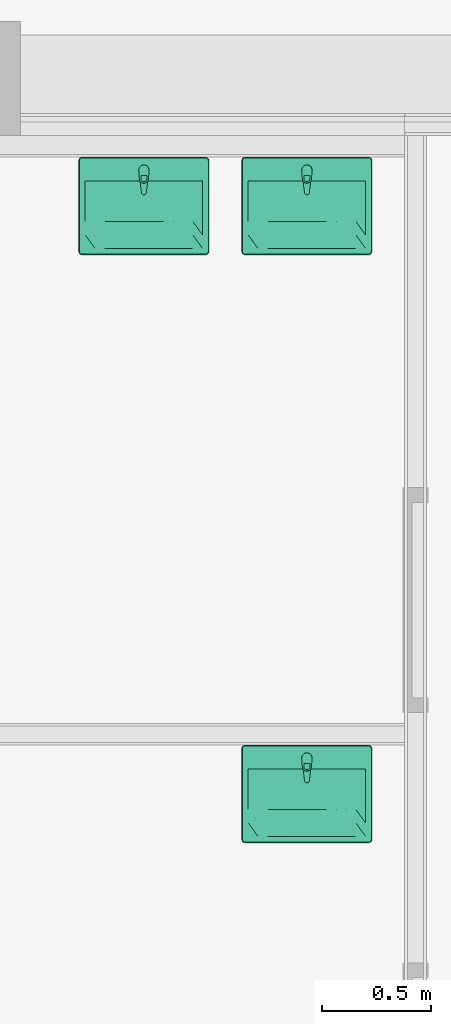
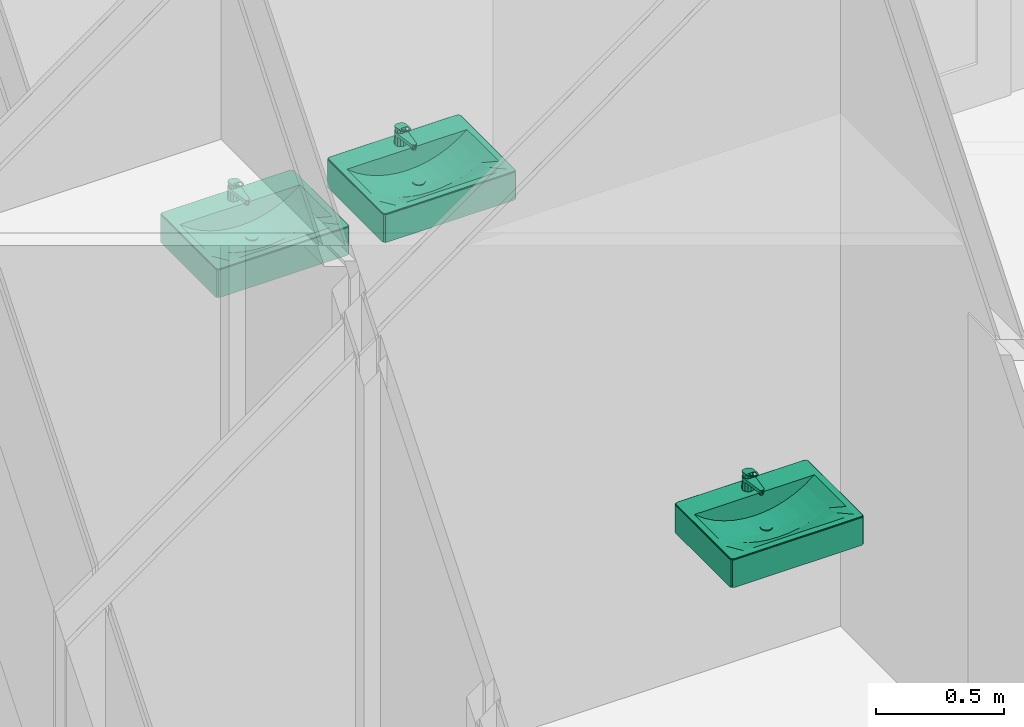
# One storey, part 119 of 135: 3 flow controllers.
"""IFC2X3 building model written with IfcOpenShell, lengths in millimetres."""

from ifc_helpers import new_model, entity, si_unit, converted_unit, derived_unit, money_unit, direction, frame, origin_with_axes, place, context, subcontext, project, spatial, open_shell, faceted_brep, surface_model, source, transform, mapped, type_object, type_shapes, element, save


model = new_model("IFC2X3")

# Units and contexts
model_context = context("Model", 3, precision=0.01, world=origin_with_axes(), true_north=direction((0.0, 1.0)))
body_context = subcontext(model_context, "Body", "Model", "MODEL_VIEW")
ifc_project = project(units=[si_unit("LENGTHUNIT", "METRE", prefix="MILLI"), si_unit("AREAUNIT", "SQUARE_METRE"), si_unit("VOLUMEUNIT", "CUBIC_METRE"), converted_unit("PLANEANGLEUNIT", "DEGREE", entity("IfcPlaneAngleMeasure", 0.0174532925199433), si_unit("PLANEANGLEUNIT", "RADIAN"), dimensions=[0, 0, 0, 0, 0, 0, 0]), money_unit("EUR"), converted_unit("TIMEUNIT", "Year", entity("IfcTimeMeasure", 31557600.0), si_unit("TIMEUNIT", "SECOND"), dimensions=[0, 0, 1, 0, 0, 0, 0]), si_unit("MASSUNIT", "GRAM", prefix="KILO"), si_unit("THERMODYNAMICTEMPERATUREUNIT", "DEGREE_CELSIUS"), si_unit("LUMINOUSINTENSITYUNIT", "LUMEN"), si_unit("ENERGYUNIT", "JOULE", prefix="MEGA"), derived_unit("THERMALCONDUCTANCEUNIT", [(si_unit("POWERUNIT", "WATT"), 1), (si_unit("LENGTHUNIT", "METRE"), -1), (si_unit("THERMODYNAMICTEMPERATUREUNIT", "KELVIN"), -1)]), derived_unit("SPECIFICHEATCAPACITYUNIT", [(si_unit("ENERGYUNIT", "JOULE"), 1), (si_unit("MASSUNIT", "GRAM", prefix="KILO"), -1), (si_unit("THERMODYNAMICTEMPERATUREUNIT", "KELVIN"), -1)]), derived_unit("MASSDENSITYUNIT", [(si_unit("MASSUNIT", "GRAM", prefix="KILO"), 1), (si_unit("VOLUMEUNIT", "CUBIC_METRE"), -1)])], contexts=[model_context])

# Site, building, storey
site_placement = place(None, origin_with_axes())
site = spatial("IfcSite", under=ifc_project, at=site_placement, Name="Site", CompositionType="ELEMENT")
building_placement = place(site_placement, origin_with_axes())
building = spatial("IfcBuilding", under=site, at=building_placement, Name="Naam gebouw", CompositionType="ELEMENT")
storey_placement = place(building_placement, origin_with_axes())
storey = spatial("IfcBuildingStorey", under=building, at=storey_placement, Name="Begane grond N", CompositionType="ELEMENT", Elevation=0.0)

# Flow controllers
valve_type = type_object("IfcValveType", Name="Wasbak 27", PredefinedType="NOTDEFINED")
shared_shape = source(origin_with_axes(), body_context, "Body", "SurfaceModel", [
    faceted_brep([(-285.0, -450.0, 865.0), (-292.5, -447.9903810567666, 865.0), (-297.9903810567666, -442.5, 865.0), (-300.0, -435.0, 865.0), (-300.0, -15.00000000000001, 865.0), (-297.9903810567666, -7.500000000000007, 865.0), (-292.5, -2.009618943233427, 865.0), (-285.0, 0.0, 865.0), (285.0, 0.0, 865.0), (292.5, -2.009618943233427, 865.0), (297.9903810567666, -7.500000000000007, 865.0), (300.0, -15.00000000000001, 865.0), (300.0, -435.0, 865.0), (297.9903810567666, -442.5, 865.0), (292.5, -447.9903810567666, 865.0), (285.0, -450.0, 865.0), (270.0, -420.0000000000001, 865.0), (270.0, -110.0, 865.0), (-270.0, -110.0, 865.0), (-270.0, -420.0000000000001, 865.0), (-284.9999995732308, -450.0000003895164, 995.0), (-292.499999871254, -447.9903813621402, 995.0), (-297.990381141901, -442.5000000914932, 995.0), (-300.0000001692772, -434.99999979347, 995.0), (-300.0000001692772, -14.99999986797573, 995.0), (-297.990381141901, -7.499999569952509, 995.0), (-292.499999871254, -2.009619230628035, 995.0), (-284.9999995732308, -2.032518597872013e-07, 995.0), (284.9999997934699, -2.032518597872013e-07, 995.0), (292.5000000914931, -2.009619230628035, 995.0), (297.9903813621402, -7.499999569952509, 995.0), (300.0000003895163, -14.99999986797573, 995.0), (300.0000003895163, -434.99999979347, 995.0), (297.9903813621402, -442.5000000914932, 995.0), (292.5000000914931, -447.9903813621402, 995.0), (284.9999997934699, -450.0000003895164, 995.0), (270.0, -110.0, 999.9999996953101), (270.0, -420.0000000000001, 999.9999996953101), (-270.0, -110.0, 999.9999996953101), (-270.0, -420.0000000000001, 999.9999996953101), (-284.9775698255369, -449.8296295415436, 996.2940952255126), (-292.411809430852, -447.8376310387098, 996.2940952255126), (-297.8376308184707, -442.4118096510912, 996.2940952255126), (-299.8296293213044, -434.9775700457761, 996.2940952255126), (-299.8296293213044, -15.02242961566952, 996.2940952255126), (-297.8376308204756, -7.588190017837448, 996.2940952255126), (-292.4118094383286, -2.16236955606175, 996.2940952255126), (-284.9775698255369, -0.1703710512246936, 996.2940952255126), (284.9775700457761, -0.1703710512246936, 996.2940952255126), (292.4118096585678, -2.16236955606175, 996.2940952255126), (297.8376310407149, -7.588190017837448, 996.2940952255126), (299.8296295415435, -15.02242961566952, 996.2940952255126), (299.8296295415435, -434.9775700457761, 996.2940952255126), (297.8376310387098, -442.4118096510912, 996.2940952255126), (292.4118096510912, -447.8376310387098, 996.2940952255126), (284.9775700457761, -449.8296295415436, 996.2940952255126), (284.3417376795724, -4.999997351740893, 999.9999996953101), (-284.3417374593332, -4.999997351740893, 999.9999996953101), (-289.9118111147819, -6.492494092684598, 999.9999996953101), (-293.507506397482, -10.08818876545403, 999.9999996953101), (-295.0000030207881, -15.6582619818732, 999.9999996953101), (-295.0000030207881, -434.3417376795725, 999.9999996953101), (-293.5075063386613, -439.9118111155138, 999.9999996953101), (-289.9118108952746, -443.5075065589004, 999.9999996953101), (-284.3417374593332, -445.0000032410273, 999.9999996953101), (284.3417376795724, -445.0000032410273, 999.9999996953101), (289.9118111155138, -443.5075065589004, 999.9999996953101), (293.5075065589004, -439.9118111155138, 999.9999996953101), (295.0000032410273, -434.3417376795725, 999.9999996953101), (295.0000032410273, -15.6582619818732, 999.9999996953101), (293.5075066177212, -10.08818876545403, 999.9999996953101), (289.911811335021, -6.492494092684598, 999.9999996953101), (-284.8071989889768, -448.5355345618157, 998.5355339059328), (-291.7419365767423, -446.6773772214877, 998.5355339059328), (-296.6773770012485, -441.7419367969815, 998.5355339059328), (-298.5355343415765, -434.807199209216, 998.5355339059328), (-298.5355343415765, -15.1928004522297, 998.5355339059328), (-296.677377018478, -8.258062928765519, 998.5355339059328), (-291.7419366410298, -3.322623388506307, 998.5355339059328), (-284.8071989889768, -1.464466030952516, 998.5355339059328), (284.8071992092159, -1.464466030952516, 998.5355339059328), (291.7419368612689, -3.322623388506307, 998.5355339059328), (296.6773772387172, -8.258062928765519, 998.5355339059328), (298.5355345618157, -15.1928004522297, 998.5355339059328), (298.5355345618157, -434.807199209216, 998.5355339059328), (296.6773772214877, -441.7419367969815, 998.5355339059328), (291.7419367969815, -446.6773772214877, 998.5355339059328), (284.8071992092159, -448.5355345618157, 998.5355339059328), (284.5121082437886, -3.705904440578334, 999.8296291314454), (-284.5121080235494, -3.705904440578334, 999.8296291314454), (-290.581682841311, -5.332242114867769, 999.8296291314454), (-294.667758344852, -9.418316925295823, 999.8296291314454), (-296.2940959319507, -15.487891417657, 999.8296291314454), (-296.2940959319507, -434.5121082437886, 999.8296291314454), (-294.6677583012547, -440.5816828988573, 999.8296291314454), (-290.5816826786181, -444.6677585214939, 999.8296291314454), (-284.5121080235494, -446.2940961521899, 999.8296291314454), (284.5121082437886, -446.2940961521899, 999.8296291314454), (290.5816828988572, -444.6677585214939, 999.8296291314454), (294.6677585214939, -440.5816828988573, 999.8296291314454), (296.2940961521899, -434.5121082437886, 999.8296291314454), (296.2940961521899, -15.487891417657, 999.8296291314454), (294.6677585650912, -9.418316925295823, 999.8296291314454), (290.5816830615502, -5.332242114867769, 999.8296291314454)], [[[0, 1, 2, 3, 4, 5, 6, 7, 8, 9, 10, 11, 12, 13, 14, 15], [16, 17, 18, 19]], [[1, 0, 20, 21]], [[2, 1, 21, 22]], [[3, 2, 22, 23]], [[4, 3, 23, 24]], [[5, 4, 24, 25]], [[6, 5, 25, 26]], [[7, 6, 26, 27]], [[8, 7, 27, 28]], [[9, 8, 28, 29]], [[10, 9, 29, 30]], [[11, 10, 30, 31]], [[12, 11, 31, 32]], [[13, 12, 32, 33]], [[14, 13, 33, 34]], [[15, 14, 34, 35]], [[0, 15, 35, 20]], [[36, 17, 16, 37]], [[38, 18, 17, 36]], [[39, 19, 18, 38]], [[37, 16, 19, 39]], [[21, 20, 40, 41]], [[22, 21, 41, 42]], [[23, 22, 42, 43]], [[24, 23, 43, 44]], [[25, 24, 44, 45]], [[26, 25, 45, 46]], [[27, 26, 46, 47]], [[28, 27, 47, 48]], [[29, 28, 48, 49]], [[30, 29, 49, 50]], [[31, 30, 50, 51]], [[32, 31, 51, 52]], [[33, 32, 52, 53]], [[34, 33, 53, 54]], [[35, 34, 54, 55]], [[20, 35, 55, 40]], [[56, 57, 58, 59, 60, 61, 62, 63, 64, 65, 66, 67, 68, 69, 70, 71], [37, 39, 38, 36]], [[41, 40, 72, 73]], [[42, 41, 73, 74]], [[43, 42, 74, 75]], [[44, 43, 75, 76]], [[45, 44, 76, 77]], [[46, 45, 77, 78]], [[47, 46, 78, 79]], [[48, 47, 79, 80]], [[49, 48, 80, 81]], [[50, 49, 81, 82]], [[51, 50, 82, 83]], [[52, 51, 83, 84]], [[53, 52, 84, 85]], [[54, 53, 85, 86]], [[55, 54, 86, 87]], [[40, 55, 87, 72]], [[88, 89, 57, 56]], [[89, 90, 58, 57]], [[90, 91, 59, 58]], [[91, 92, 60, 59]], [[92, 93, 61, 60]], [[93, 94, 62, 61]], [[94, 95, 63, 62]], [[95, 96, 64, 63]], [[96, 97, 65, 64]], [[97, 98, 66, 65]], [[98, 99, 67, 66]], [[99, 100, 68, 67]], [[100, 101, 69, 68]], [[101, 102, 70, 69]], [[102, 103, 71, 70]], [[103, 88, 56, 71]], [[73, 72, 96, 95]], [[74, 73, 95, 94]], [[75, 74, 94, 93]], [[76, 75, 93, 92]], [[77, 76, 92, 91]], [[78, 77, 91, 90]], [[79, 78, 90, 89]], [[80, 79, 89, 88]], [[81, 80, 88, 103]], [[82, 81, 103, 102]], [[83, 82, 102, 101]], [[84, 83, 101, 100]], [[85, 84, 100, 99]], [[86, 85, 99, 98]], [[87, 86, 98, 97]], [[72, 87, 97, 96]]]),
    faceted_brep([(270.0, -420.0000000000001, 865.0), (-270.0, -420.0000000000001, 865.0), (-270.0, -110.0, 865.0), (270.0, -110.0, 865.0), (-12.49999999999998, -224.368635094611, 865.0), (0.0, -227.718, 865.0), (12.50000000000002, -224.368635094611, 865.0), (21.65063509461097, -215.218, 865.0), (25.0, -202.718, 865.0), (21.65063509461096, -190.218, 865.0), (12.49999999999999, -181.067364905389, 865.0), (0.0, -177.718, 865.0), (-12.50000000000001, -181.067364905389, 865.0), (-21.65063509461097, -190.218, 865.0), (-25.0, -202.718, 865.0), (-21.65063509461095, -215.218, 865.0), (135.0, -420.0000000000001, 1000.0), (90.0, -420.0000000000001, 1000.0), (44.99999999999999, -420.0000000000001, 1000.0), (0.0, -420.0000000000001, 1000.0), (-45.00000000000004, -420.0000000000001, 1000.0), (-90.00000000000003, -420.0000000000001, 1000.0), (-135.0, -420.0000000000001, 1000.0), (-180.0000000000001, -420.0000000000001, 1000.0), (-225.0, -420.0000000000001, 1000.0), (-270.0, -420.0000000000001, 1000.0), (270.0, -420.0000000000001, 1000.0), (225.0, -420.0000000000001, 1000.0), (180.0, -420.0000000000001, 1000.0), (-270.0, -234.0, 1000.0), (-270.0, -172.0, 1000.0), (-270.0, -110.0, 1000.0), (-270.0, -358.0000000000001, 1000.0), (-270.0, -296.0000000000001, 999.9999999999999), (-135.0, -110.0, 922.6004593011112), (-90.00000000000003, -110.0, 909.8887668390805), (-45.00000000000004, -110.0, 902.449942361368), (0.0, -110.0, 900.0), (44.99999999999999, -110.0, 902.449942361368), (90.0, -110.0, 909.8887668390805), (135.0, -110.0, 922.6004593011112), (180.0, -110.0, 941.1231796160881), (225.0, -110.0, 966.3832810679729), (270.0, -110.0, 1000.0), (-225.0, -110.0, 966.3832810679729), (-180.0000000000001, -110.0, 941.1231796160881), (270.0, -296.0000000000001, 1000.0), (270.0, -358.0000000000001, 1000.0), (270.0, -172.0, 1000.0), (270.0, -234.0, 1000.0), (0.0, -227.718, 900.0), (-12.49999999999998, -224.368635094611, 900.6805395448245), (12.50000000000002, -224.368635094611, 900.6805395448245), (21.65063509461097, -215.218, 901.1787290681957), (25.0, -202.718, 901.3610790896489), (21.65063509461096, -190.218, 901.1787290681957), (12.49999999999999, -181.067364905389, 900.6805395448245), (0.0, -177.718, 900.0), (-12.50000000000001, -181.067364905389, 900.6805395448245), (-21.65063509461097, -190.218, 901.1787290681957), (-25.0, -202.718, 901.3610790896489), (-21.65063509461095, -215.218, 901.1787290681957), (90.0, -358.0000000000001, 959.6989661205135), (44.99999999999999, -358.0000000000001, 956.0213334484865), (0.0, -358.0000000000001, 954.7990813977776), (-45.00000000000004, -358.0000000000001, 956.0213334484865), (-90.00000000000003, -358.0000000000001, 959.6989661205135), (-135.0, -358.0000000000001, 965.8650987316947), (-180.0000000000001, -358.0000000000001, 974.5766150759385), (-225.0, -358.0000000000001, 985.9168845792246), (225.0, -358.0000000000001, 985.9168845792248), (180.0, -358.0000000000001, 974.5766150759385), (135.0, -358.0000000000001, 965.8650987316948), (-225.0, -234.0, 966.3832810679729), (-225.0, -172.0, 966.3832810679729), (-225.0, -296.0000000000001, 970.8433791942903), (-135.0, -172.0, 922.6004593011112), (-90.00000000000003, -172.0, 909.8887668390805), (-45.00000000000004, -172.0, 902.449942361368), (0.0, -172.0, 900.0), (44.99999999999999, -172.0, 902.449942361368), (90.0, -172.0, 909.8887668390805), (135.0, -172.0, 922.6004593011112), (180.0, -172.0, 941.1231796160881), (225.0, -172.0, 966.3832810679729), (-180.0000000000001, -172.0, 941.1231796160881), (225.0, -296.0000000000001, 970.8433791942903), (225.0, -234.0, 966.3832810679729), (-45.00000000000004, -234.0, 902.449942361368), (0.0, -234.0, 900.0), (44.99999999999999, -234.0, 902.449942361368), (-180.0000000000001, -234.0, 941.1231796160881), (-135.0, -234.0, 922.6004593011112), (-90.00000000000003, -234.0, 909.8887668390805), (90.0, -234.0, 909.8887668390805), (135.0, -234.0, 922.6004593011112), (180.0, -234.0, 941.1231796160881), (0.0, -296.0000000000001, 911.4604006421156), (44.99999999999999, -296.0000000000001, 913.6864730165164), (90.0, -296.0000000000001, 920.4312036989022), (-45.00000000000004, -296.0000000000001, 913.6864730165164), (-90.00000000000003, -296.0000000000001, 920.4312036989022), (-135.0, -296.0000000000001, 931.904485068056), (-180.0000000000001, -296.0000000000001, 948.4946543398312), (180.0, -296.0000000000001, 948.4946543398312), (135.0, -296.0000000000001, 931.904485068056)], [[[0, 1, 2, 3], [4, 5, 6, 7, 8, 9, 10, 11, 12, 13, 14, 15]], [[16, 17, 18, 19, 20, 21, 22, 23, 24, 25, 1, 0, 26, 27, 28]], [[29, 30, 31, 2, 1, 25, 32, 33]], [[34, 35, 36, 37, 38, 39, 40, 41, 42, 43, 3, 2, 31, 44, 45]], [[46, 47, 26, 0, 3, 43, 48, 49]], [[50, 5, 4, 51]], [[52, 6, 5, 50]], [[53, 7, 6, 52]], [[54, 8, 7, 53]], [[55, 9, 8, 54]], [[56, 10, 9, 55]], [[57, 11, 10, 56]], [[58, 12, 11, 57]], [[59, 13, 12, 58]], [[60, 14, 13, 59]], [[61, 15, 14, 60]], [[51, 4, 15, 61]], [[16, 62, 17]], [[17, 63, 18]], [[18, 64, 19]], [[19, 65, 20]], [[20, 66, 21]], [[21, 67, 22]], [[22, 68, 23]], [[23, 69, 24]], [[24, 32, 25]], [[26, 70, 27]], [[27, 71, 28]], [[28, 72, 16]], [[29, 73, 74, 30]], [[30, 74, 44, 31]], [[69, 33, 32]], [[75, 29, 33]], [[76, 77, 35, 34]], [[77, 78, 36, 35]], [[78, 79, 37, 36]], [[79, 80, 38, 37]], [[80, 81, 39, 38]], [[81, 82, 40, 39]], [[82, 83, 41, 40]], [[83, 84, 42, 41]], [[84, 48, 43, 42]], [[74, 85, 45, 44]], [[85, 76, 34, 45]], [[47, 46, 86]], [[26, 47, 70]], [[87, 49, 48, 84]], [[46, 49, 87]], [[58, 57, 79, 78, 88, 89, 50, 51, 61, 60, 59]], [[56, 55, 54, 53, 52, 50, 89, 90, 80, 79, 57]], [[16, 72, 62]], [[17, 62, 63]], [[18, 63, 64]], [[19, 64, 65]], [[20, 65, 66]], [[21, 66, 67]], [[22, 67, 68]], [[23, 68, 69]], [[24, 69, 32]], [[27, 70, 71]], [[28, 71, 72]], [[75, 73, 29]], [[73, 91, 85, 74]], [[69, 75, 33]], [[92, 93, 77, 76]], [[93, 88, 78, 77]], [[90, 94, 81, 80]], [[94, 95, 82, 81]], [[95, 96, 83, 82]], [[96, 87, 84, 83]], [[91, 92, 76, 85]], [[46, 87, 86]], [[47, 86, 70]], [[97, 89, 88]], [[98, 90, 89]], [[72, 99, 62]], [[62, 98, 63]], [[63, 97, 64]], [[64, 100, 65]], [[65, 101, 66]], [[66, 102, 67]], [[67, 103, 68]], [[68, 75, 69]], [[70, 104, 71]], [[71, 105, 72]], [[103, 73, 75]], [[103, 91, 73]], [[101, 93, 92]], [[100, 88, 93]], [[99, 94, 90]], [[105, 95, 94]], [[104, 96, 95]], [[86, 87, 96]], [[102, 92, 91]], [[70, 86, 104]], [[98, 89, 97]], [[97, 88, 100]], [[99, 90, 98]], [[72, 105, 99]], [[62, 99, 98]], [[63, 98, 97]], [[64, 97, 100]], [[65, 100, 101]], [[66, 101, 102]], [[67, 102, 103]], [[68, 103, 75]], [[71, 104, 105]], [[102, 91, 103]], [[100, 93, 101]], [[101, 92, 102]], [[105, 94, 99]], [[104, 95, 105]], [[86, 96, 104]]]),
    faceted_brep([(-21.65063509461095, -215.218, 900.0), (-25.0, -202.718, 900.0), (-21.65063509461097, -190.218, 900.0), (-12.50000000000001, -181.067364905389, 900.0), (0.0, -177.718, 900.0), (12.49999999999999, -181.067364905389, 900.0), (21.65063509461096, -190.218, 900.0), (25.0, -202.718, 900.0), (21.65063509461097, -215.218, 900.0), (12.50000000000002, -224.368635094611, 900.0), (0.0, -227.718, 900.0), (-12.49999999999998, -224.368635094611, 900.0), (-21.65063509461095, -215.218, 905.0), (-25.0, -202.718, 905.0), (-21.65063509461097, -190.218, 905.0), (-12.50000000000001, -181.067364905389, 905.0), (0.0, -177.718, 905.0), (12.49999999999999, -181.067364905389, 905.0), (21.65063509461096, -190.218, 905.0), (25.0, -202.718, 905.0), (21.65063509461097, -215.218, 905.0), (12.50000000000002, -224.368635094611, 905.0), (0.0, -227.718, 905.0), (-12.49999999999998, -224.368635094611, 905.0)], [[[0, 1, 2, 3, 4, 5, 6, 7, 8, 9, 10, 11]], [[0, 12, 13, 1]], [[1, 13, 14, 2]], [[2, 14, 15, 3]], [[3, 15, 16, 4]], [[4, 16, 17, 5]], [[5, 17, 18, 6]], [[6, 18, 19, 7]], [[7, 19, 20, 8]], [[8, 20, 21, 9]], [[9, 21, 22, 10]], [[10, 22, 23, 11]], [[11, 23, 12, 0]], [[12, 23, 22, 21, 20, 19, 18, 17, 16, 15, 14, 13]]]),
    surface_model("IfcShellBasedSurfaceModel", [(0.0, -202.718, 907.0), (6.310952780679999, -191.7871091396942, 906.4975737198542), (0.0, -190.09609443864, 906.4975737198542), (10.93089086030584, -196.40704721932, 906.4975737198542), (12.5, -181.067364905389, 905.0), (0.0, -177.718, 905.0), (-6.310952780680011, -191.7871091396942, 906.4975737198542), (12.62190556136, -202.718, 906.4975737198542), (21.65063509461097, -190.218, 905.0), (-12.50000000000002, -181.067364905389, 905.0), (-10.93089086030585, -196.40704721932, 906.4975737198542), (10.93089086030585, -209.02895278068, 906.4975737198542), (25.0, -202.718, 905.0), (-21.65063509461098, -190.218, 905.0), (-12.62190556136, -202.718, 906.4975737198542), (6.310952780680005, -213.6488908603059, 906.4975737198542), (21.65063509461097, -215.218, 905.0), (-25.0, -202.718, 905.0), (-10.93089086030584, -209.02895278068, 906.4975737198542), (0.0, -215.33990556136, 906.4975737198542), (12.50000000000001, -224.368635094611, 905.0), (-21.65063509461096, -215.218, 905.0), (-6.310952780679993, -213.6488908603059, 906.4975737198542), (0.0, -227.718, 905.0), (-12.49999999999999, -224.368635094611, 905.0)], [open_shell([[[0, 1, 2]], [[0, 3, 1]], [[1, 4, 5, 2]], [[0, 2, 6]], [[0, 7, 3]], [[3, 8, 4, 1]], [[2, 5, 9, 6]], [[0, 6, 10]], [[0, 11, 7]], [[7, 12, 8, 3]], [[6, 9, 13, 10]], [[0, 10, 14]], [[0, 15, 11]], [[11, 16, 12, 7]], [[10, 13, 17, 14]], [[0, 14, 18]], [[0, 19, 15]], [[15, 20, 16, 11]], [[14, 17, 21, 18]], [[0, 18, 22]], [[0, 22, 19]], [[19, 23, 20, 15]], [[18, 21, 24, 22]], [[22, 24, 23, 19]]])]),
    faceted_brep([(-12.50000000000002, -38.34936490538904, 1000.0), (-10.587322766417, -41.66221905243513, 1076.507089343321), (0.0, -38.79807692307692, 1075.961538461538), (0.0, -34.99999999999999, 1000.0), (-21.65063509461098, -47.50000000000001, 1000.0), (-18.27355038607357, -49.44976076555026, 1077.99043062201), (-21.0, -60.00000000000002, 1080.0), (-18.10034137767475, -70.45023696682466, 1081.990521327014), (-10.41410590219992, -78.03776053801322, 1083.435763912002), (0.0, -80.80188679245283, 1083.962264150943), (10.41410590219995, -78.0377605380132, 1083.435763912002), (18.10034137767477, -70.45023696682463, 1081.990521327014), (21.0, -59.99999999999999, 1080.0), (18.27355038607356, -49.44976076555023, 1077.99043062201), (10.58732276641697, -41.66221905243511, 1076.507089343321), (12.5, -38.34936490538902, 1000.0), (21.65063509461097, -47.49999999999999, 1000.0), (25.0, -59.99999999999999, 1000.0), (21.65063509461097, -72.5, 1000.0), (12.50000000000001, -81.65063509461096, 1000.0), (0.0, -84.99999999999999, 1000.0), (-12.49999999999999, -81.65063509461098, 1000.0), (-21.65063509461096, -72.50000000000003, 1000.0), (-25.0, -60.00000000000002, 1000.0)], [[[0, 1, 2, 3]], [[4, 5, 1, 0]], [[1, 5, 6, 7, 8, 9, 10, 11, 12, 13, 14, 2]], [[3, 2, 14, 15]], [[0, 3, 15, 16, 17, 18, 19, 20, 21, 22, 23, 4]], [[23, 6, 5, 4]], [[22, 7, 6, 23]], [[21, 8, 7, 22]], [[20, 9, 8, 21]], [[19, 10, 9, 20]], [[18, 11, 10, 19]], [[17, 12, 11, 18]], [[16, 13, 12, 17]], [[15, 14, 13, 16]]]),
    faceted_brep([(-9.000000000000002, -163.0, 1035.0), (-9.000000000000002, -163.0, 1045.0), (-7.794228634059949, -158.5, 1045.0), (-7.794228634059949, -158.5, 1035.0), (-7.794228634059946, -167.5, 1035.0), (-7.794228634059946, -167.5, 1045.0), (-4.499999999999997, -170.79422863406, 1045.0), (0.0, -172.0, 1045.0), (4.500000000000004, -170.79422863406, 1045.0), (7.794228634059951, -167.5, 1045.0), (9.000000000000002, -163.0, 1045.0), (7.794228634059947, -158.5, 1045.0), (4.499999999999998, -155.2057713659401, 1045.0), (0.0, -154.0, 1045.0), (-4.500000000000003, -155.2057713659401, 1045.0), (-4.500000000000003, -155.2057713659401, 1035.0), (0.0, -154.0, 1035.0), (4.499999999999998, -155.2057713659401, 1035.0), (7.794228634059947, -158.5, 1035.0), (9.000000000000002, -163.0, 1035.0), (7.794228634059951, -167.5, 1035.0), (4.500000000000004, -170.79422863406, 1035.0), (0.0, -172.0, 1035.0), (-4.499999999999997, -170.79422863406, 1035.0)], [[[0, 1, 2, 3]], [[4, 5, 1, 0]], [[1, 5, 6, 7, 8, 9, 10, 11, 12, 13, 14, 2]], [[3, 2, 14, 15]], [[0, 3, 15, 16, 17, 18, 19, 20, 21, 22, 23, 4]], [[23, 6, 5, 4]], [[22, 7, 6, 23]], [[21, 8, 7, 22]], [[20, 9, 8, 21]], [[19, 10, 9, 20]], [[18, 11, 10, 19]], [[17, 12, 11, 18]], [[16, 13, 12, 17]], [[15, 14, 13, 16]]]),
    faceted_brep([(12.87171762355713, -39.74369617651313, 1060.0), (-1.019988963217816e-06, -36.00002168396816, 1060.0), (-12.87171934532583, -39.74369727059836, 1060.0), (-21.72780617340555, -49.80679647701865, 1060.0), (-23.80539974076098, -63.04990202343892, 1060.0), (-10.912, -164.3883, 1060.0), (-9.02891689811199, -169.2831346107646, 1060.0), (-5.093388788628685, -172.7496928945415, 1060.0), (-3.626798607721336e-05, -173.9999600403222, 1060.0), (5.093324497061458, -172.7497264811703, 1060.0), (9.02887546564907, -169.2831941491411, 1060.0), (10.9119908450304, -164.3883719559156, 1060.0), (23.8054, -63.04989999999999, 1060.0), (21.72780530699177, -49.80679463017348, 1060.0), (-11.00000000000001, -40.94744111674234, 1060.0), (0.0, -37.99999999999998, 1060.0), (11.0, -40.94744111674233, 1060.0), (19.05255888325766, -48.99999999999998, 1060.0), (22.00000000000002, -59.99999999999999, 1060.0), (19.05255888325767, -70.99999999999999, 1060.0), (11.00000000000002, -79.05255888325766, 1060.0), (0.0, -82.0, 1060.0), (-10.99999999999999, -79.05255888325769, 1060.0), (-19.05255888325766, -71.00000000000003, 1060.0), (-22.00000000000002, -60.0, 1060.0), (-19.05255888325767, -48.99999999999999, 1060.0), (12.87171762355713, -39.74369617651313, 1045.0), (-1.019988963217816e-06, -36.00002168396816, 1045.0), (-12.87171934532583, -39.74369727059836, 1045.0), (-21.72780617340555, -49.80679647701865, 1045.0), (-23.80539974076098, -63.04990202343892, 1045.0), (-10.912, -164.3883, 1045.0), (-9.02891689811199, -169.2831346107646, 1045.0), (-5.093388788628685, -172.7496928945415, 1045.0), (-3.626798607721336e-05, -173.9999600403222, 1045.0), (5.093324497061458, -172.7497264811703, 1045.0), (9.02887546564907, -169.2831941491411, 1045.0), (10.9119908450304, -164.3883719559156, 1045.0), (23.8054, -63.04989999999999, 1045.0), (21.72780530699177, -49.80679463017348, 1045.0), (0.0, -37.24999999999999, 1045.0), (-11.37500000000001, -40.297922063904, 1045.0), (11.375, -40.297922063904, 1045.0), (19.70207793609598, -48.62499999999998, 1045.0), (22.75000000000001, -59.99999999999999, 1045.0), (19.70207793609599, -71.375, 1045.0), (11.37500000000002, -79.70207793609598, 1045.0), (0.0, -82.75, 1045.0), (-11.37499999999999, -79.702077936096, 1045.0), (-19.70207793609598, -71.37500000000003, 1045.0), (-22.75000000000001, -60.0, 1045.0), (-19.70207793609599, -48.62499999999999, 1045.0)], [[[0, 1, 2, 3, 4, 5, 6, 7, 8, 9, 10, 11, 12, 13], [14, 15, 16, 17, 18, 19, 20, 21, 22, 23, 24, 25]], [[26, 27, 1, 0]], [[27, 28, 2, 1]], [[28, 29, 3, 2]], [[29, 30, 4, 3]], [[30, 31, 5, 4]], [[31, 32, 6, 5]], [[32, 33, 7, 6]], [[33, 34, 8, 7]], [[34, 35, 9, 8]], [[35, 36, 10, 9]], [[36, 37, 11, 10]], [[37, 38, 12, 11]], [[38, 39, 13, 12]], [[39, 26, 0, 13]], [[40, 15, 14, 41]], [[42, 16, 15, 40]], [[16, 42, 43, 17]], [[17, 43, 44, 18]], [[18, 44, 45, 19]], [[19, 45, 46, 20]], [[20, 46, 47, 21]], [[48, 22, 21, 47]], [[49, 23, 22, 48]], [[50, 24, 23, 49]], [[51, 25, 24, 50]], [[41, 14, 25, 51]], [[34, 33, 32, 31, 30, 29, 28, 27, 26, 39, 38, 37, 36, 35], [48, 47, 46, 45, 44, 43, 42, 40, 41, 51, 50, 49]]]),
    faceted_brep([(-23.893, -61.69256934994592, 1080.322394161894), (-23.893, -60.94412091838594, 1084.251748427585), (-21.29642141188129, -48.47683276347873, 1081.877026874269), (-21.29642141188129, -49.22528119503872, 1077.947672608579), (-20.94593649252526, -101.8367022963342, 1087.968895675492), (-20.94593649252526, -101.0882538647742, 1091.898249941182), (-17.66313911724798, -110.765918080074, 1093.74161455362), (-10.06143529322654, -117.7152976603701, 1095.065305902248), (0.0004426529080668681, -120.2371634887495, 1095.54566129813), (10.06221236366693, -117.7148809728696, 1095.0652265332), (17.66361794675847, -110.7651865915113, 1093.741475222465), (20.946, -101.0873864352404, 1091.898084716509), (23.89302047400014, -60.9438419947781, 1084.251695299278), (21.29629106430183, -48.47658415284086, 1081.876979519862), (12.4716815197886, -39.16035412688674, 1080.102459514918), (-0.0001423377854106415, -35.71958706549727, 1079.447075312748), (-12.47192457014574, -39.16049972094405, 1080.102487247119), (-14.0, -84.79235429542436, 1088.79426907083), (14.0, -84.79235429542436, 1088.79426907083), (14.0, -99.60798455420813, 1091.616293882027), (12.12435565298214, -106.4843545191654, 1092.926078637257), (7.000000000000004, -111.5182067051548, 1093.884907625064), (0.0, -113.3607244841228, 1094.235863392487), (-6.999999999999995, -111.5182067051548, 1093.884907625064), (-12.12435565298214, -106.4843545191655, 1092.926078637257), (-14.0, -99.60798455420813, 1091.616293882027), (-12.47192457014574, -39.90894815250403, 1076.173132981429), (-0.0001423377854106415, -36.46803549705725, 1075.517721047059), (12.4716815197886, -39.90880255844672, 1076.173105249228), (21.29629106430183, -49.22503258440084, 1077.947625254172), (23.89302047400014, -61.69229042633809, 1080.322341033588), (20.946, -101.8358348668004, 1087.968730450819), (17.66361794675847, -111.5136350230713, 1089.812120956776), (10.06221236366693, -118.4633294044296, 1091.13587226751), (0.0004426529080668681, -120.9856119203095, 1091.61630703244), (-10.06143529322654, -118.4637460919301, 1091.135951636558), (-17.66313911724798, -111.514366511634, 1089.81226028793), (-14.0, -85.54080272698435, 1084.86491480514), (-14.0, -100.3564329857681, 1087.686939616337), (-12.12435565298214, -107.2328029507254, 1088.996724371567), (-6.999999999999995, -112.2666551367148, 1089.955553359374), (0.0, -114.1091729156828, 1090.306509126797), (7.000000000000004, -112.2666551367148, 1089.955553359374), (12.12435565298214, -107.2328029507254, 1088.996724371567), (14.0, -100.3564329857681, 1087.686939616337), (14.0, -85.54080272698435, 1084.86491480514)], [[[0, 1, 2, 3]], [[4, 5, 1, 0]], [[1, 5, 6, 7, 8, 9, 10, 11, 12, 13, 14, 15, 16, 2], [17, 18, 19, 20, 21, 22, 23, 24, 25]], [[3, 2, 16, 26]], [[0, 3, 26, 27, 28, 29, 30, 31, 32, 33, 34, 35, 36, 4], [37, 38, 39, 40, 41, 42, 43, 44, 45]], [[36, 6, 5, 4]], [[35, 7, 6, 36]], [[34, 8, 7, 35]], [[33, 9, 8, 34]], [[32, 10, 9, 33]], [[31, 11, 10, 32]], [[30, 12, 11, 31]], [[29, 13, 12, 30]], [[28, 14, 13, 29]], [[27, 15, 14, 28]], [[26, 16, 15, 27]], [[45, 18, 17, 37]], [[44, 19, 18, 45]], [[43, 20, 19, 44]], [[42, 21, 20, 43]], [[41, 22, 21, 42]], [[40, 23, 22, 41]], [[39, 24, 23, 40]], [[38, 25, 24, 39]], [[37, 17, 25, 38]]]),
])
type_shapes(valve_type, [shared_shape])
for number, where, z_axis, x_axis, name in (
    (1, (23563.81290066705, 32923.4124251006, -150.0), (0.0, 0.0, 1.0), (1.0, 0.0, 0.0), "_Sanitair-x"),
    (2, (22813.81290066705, 32923.4124251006, -150.0), (0.0, 0.0, 1.0), (1.0, 0.0, 0.0), "_Sanitair-x"),
    (3, (23563.81290066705, 30218.41242510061, -150.0), (0.0, 0.0, 1.0), (1.0, 0.0, 0.0), "_Sanitair-x"),
):
    element("IfcFlowController", number, at=place(storey_placement, frame(where, z_axis=z_axis, x_axis=x_axis)), inside=storey, type_object=valve_type, Name=name, ObjectType="Electric Distribution Board", context=body_context, shape_type="MappedRepresentation", body=[
        mapped(shared_shape, transform((0.0, 0.0, 0.0))),
    ])

save(model, "model.ifc")
